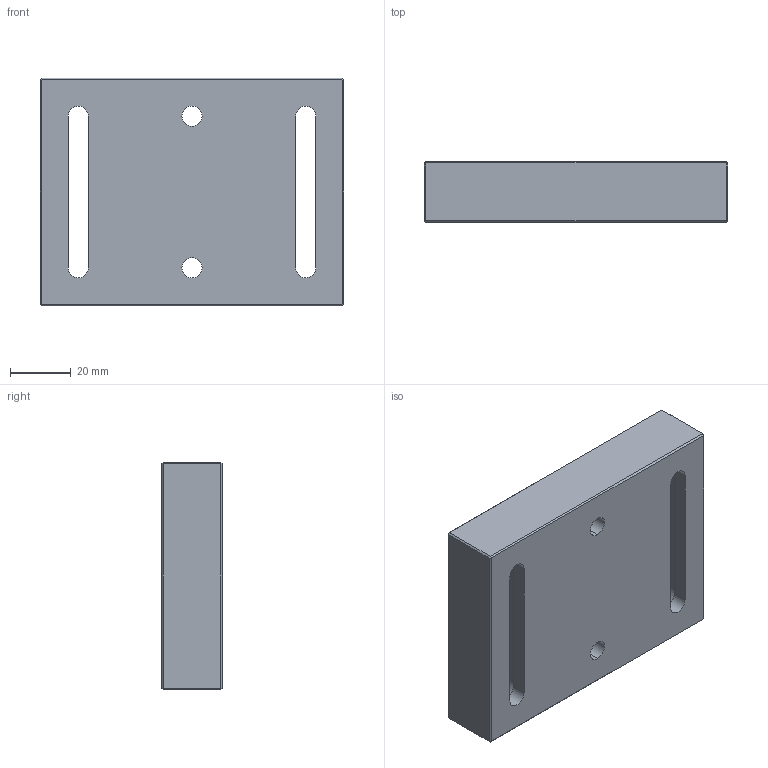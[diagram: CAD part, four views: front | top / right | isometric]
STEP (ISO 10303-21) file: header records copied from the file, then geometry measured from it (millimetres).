
FILE_DESCRIPTION (( 'STEP AP203' ), '1' );
FILE_NAME ('BP-AL20.step', '2019-05-09T08:56:18', ( '' ), ( '' ), 'SwSTEP 2.0', 'SolidWorks 2016', '' );
FILE_SCHEMA (( 'CONFIG_CONTROL_DESIGN' ));
Length unit declared in the file: millimetre
Products named in the file (1): BP-AL20
Bounding box: 100 x 20 x 75 mm (x, y, z)
Volume: 123356.9 mm3; surface area: 27760.7 mm2
Topology: 1 solids, 1 shells, 118 faces, 290 edges, 163 vertices
Faces by surface type: cylinder 50, plane 38, cone 30
Entity records: 3329 total; most frequent: DIRECTION 598, CARTESIAN_POINT 542, ORIENTED_EDGE 520, EDGE_CURVE 260, AXIS2_PLACEMENT_3D 219, VERTEX_POINT 163, VECTOR 160, LINE 160
